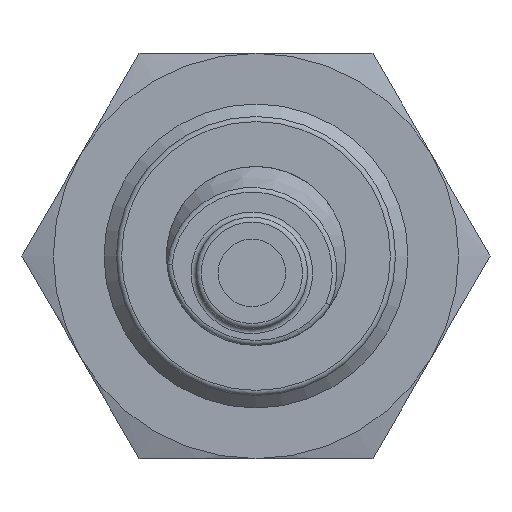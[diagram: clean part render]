
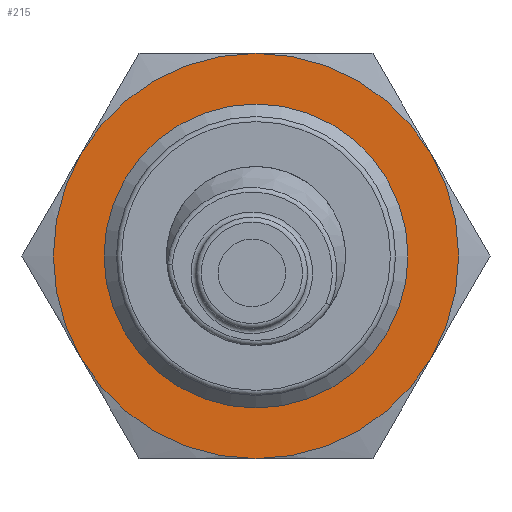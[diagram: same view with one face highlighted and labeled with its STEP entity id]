
A CAD part, left-side view. The second image highlights one B-rep face of the part: STEP entity #215.
In plain terms, the highlighted planar face has unit normal (-1, 0, 0).
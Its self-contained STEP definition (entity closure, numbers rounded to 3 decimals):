
#215 = ADVANCED_FACE( '', ( #314, #315 ), #316, .T. );
#314 = FACE_BOUND( '', #427, .T. );
#315 = FACE_OUTER_BOUND( '', #428, .T. );
#316 = PLANE( '', #429 );
#427 = EDGE_LOOP( '', ( #665 ) );
#428 = EDGE_LOOP( '', ( #666, #667, #668, #669, #670, #671 ) );
#429 = AXIS2_PLACEMENT_3D( '', #672, #673, #674 );
#665 = ORIENTED_EDGE( '', *, *, #797, .T. );
#666 = ORIENTED_EDGE( '', *, *, #798, .F. );
#667 = ORIENTED_EDGE( '', *, *, #799, .F. );
#668 = ORIENTED_EDGE( '', *, *, #760, .F. );
#669 = ORIENTED_EDGE( '', *, *, #800, .F. );
#670 = ORIENTED_EDGE( '', *, *, #763, .F. );
#671 = ORIENTED_EDGE( '', *, *, #801, .F. );
#672 = CARTESIAN_POINT( '', ( 0., 12., 0. ) );
#673 = DIRECTION( '', ( -1., 0., 0. ) );
#674 = DIRECTION( '', ( 0., 0., 1. ) );
#760 = EDGE_CURVE( '', #856, #854, #858, .T. );
#763 = EDGE_CURVE( '', #862, #860, #864, .T. );
#797 = EDGE_CURVE( '', #917, #917, #918, .T. );
#798 = EDGE_CURVE( '', #896, #875, #919, .T. );
#799 = EDGE_CURVE( '', #854, #896, #920, .T. );
#800 = EDGE_CURVE( '', #860, #856, #921, .T. );
#801 = EDGE_CURVE( '', #875, #862, #922, .T. );
#854 = VERTEX_POINT( '', #1042 );
#856 = VERTEX_POINT( '', #1049 );
#858 = CIRCLE( '', #1056, 12. );
#860 = VERTEX_POINT( '', #1058 );
#862 = VERTEX_POINT( '', #1065 );
#864 = CIRCLE( '', #1072, 12. );
#875 = VERTEX_POINT( '', #1100 );
#896 = VERTEX_POINT( '', #1142 );
#917 = VERTEX_POINT( '', #1231 );
#918 = CIRCLE( '', #1232, 9. );
#919 = CIRCLE( '', #1233, 12. );
#920 = CIRCLE( '', #1234, 12. );
#921 = CIRCLE( '', #1235, 12. );
#922 = CIRCLE( '', #1236, 12. );
#1042 = CARTESIAN_POINT( '', ( 0., 0., -12. ) );
#1049 = CARTESIAN_POINT( '', ( 0., -10.392, -6. ) );
#1056 = AXIS2_PLACEMENT_3D( '', #1304, #1305, #1306 );
#1058 = CARTESIAN_POINT( '', ( 0., -10.392, 6. ) );
#1065 = CARTESIAN_POINT( '', ( 0., 0., 12. ) );
#1072 = AXIS2_PLACEMENT_3D( '', #1307, #1308, #1309 );
#1100 = CARTESIAN_POINT( '', ( 0., 10.392, 6. ) );
#1142 = CARTESIAN_POINT( '', ( 0., 10.392, -6. ) );
#1231 = CARTESIAN_POINT( '', ( 0., 0., -9. ) );
#1232 = AXIS2_PLACEMENT_3D( '', #1337, #1338, #1339 );
#1233 = AXIS2_PLACEMENT_3D( '', #1340, #1341, #1342 );
#1234 = AXIS2_PLACEMENT_3D( '', #1343, #1344, #1345 );
#1235 = AXIS2_PLACEMENT_3D( '', #1346, #1347, #1348 );
#1236 = AXIS2_PLACEMENT_3D( '', #1349, #1350, #1351 );
#1304 = CARTESIAN_POINT( '', ( 0., 0., 0. ) );
#1305 = DIRECTION( '', ( 1., 0., 0. ) );
#1306 = DIRECTION( '', ( 0., 0., -1. ) );
#1307 = CARTESIAN_POINT( '', ( 0., 0., 0. ) );
#1308 = DIRECTION( '', ( 1., 0., 0. ) );
#1309 = DIRECTION( '', ( 0., 0., -1. ) );
#1337 = CARTESIAN_POINT( '', ( 0., 0., 0. ) );
#1338 = DIRECTION( '', ( 1., 0., 0. ) );
#1339 = DIRECTION( '', ( 0., 0., -1. ) );
#1340 = CARTESIAN_POINT( '', ( 0., 0., 0. ) );
#1341 = DIRECTION( '', ( 1., 0., 0. ) );
#1342 = DIRECTION( '', ( 0., 0., -1. ) );
#1343 = CARTESIAN_POINT( '', ( 0., 0., 0. ) );
#1344 = DIRECTION( '', ( 1., 0., 0. ) );
#1345 = DIRECTION( '', ( 0., 0., -1. ) );
#1346 = CARTESIAN_POINT( '', ( 0., 0., 0. ) );
#1347 = DIRECTION( '', ( 1., 0., 0. ) );
#1348 = DIRECTION( '', ( 0., 0., -1. ) );
#1349 = CARTESIAN_POINT( '', ( 0., 0., 0. ) );
#1350 = DIRECTION( '', ( 1., 0., 0. ) );
#1351 = DIRECTION( '', ( 0., 0., -1. ) );
